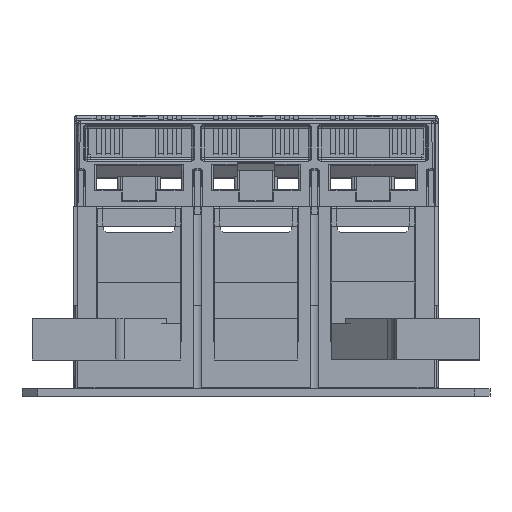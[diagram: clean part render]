
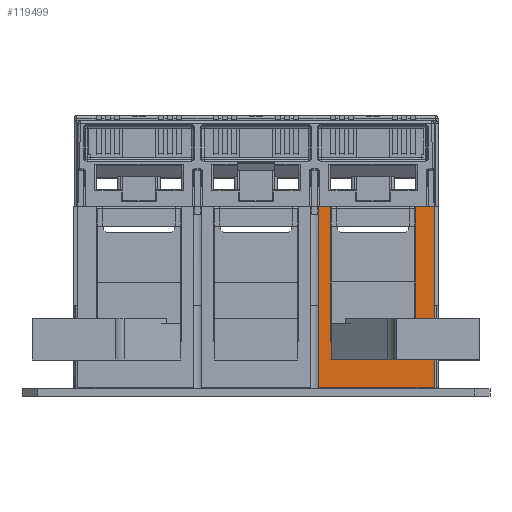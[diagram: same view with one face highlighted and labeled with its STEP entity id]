
A CAD part, front view. The second image highlights one B-rep face of the part: STEP entity #119499.
In plain terms, the highlighted planar face has unit normal (0, -1, 0).
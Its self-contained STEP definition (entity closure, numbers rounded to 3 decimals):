
#36808 = VERTEX_POINT ( 'NONE', #171377 ) ;
#37191 = VERTEX_POINT ( 'NONE', #173089 ) ;
#37200 = EDGE_CURVE ( 'NONE', #37191, #36808, #173085, .T. ) ;
#37238 = VERTEX_POINT ( 'NONE', #173246 ) ;
#37255 = EDGE_CURVE ( 'NONE', #37191, #37238, #173225, .T. ) ;
#37746 = VERTEX_POINT ( 'NONE', #175250 ) ;
#37756 = EDGE_CURVE ( 'NONE', #37759, #37746, #175229, .T. ) ;
#37759 = VERTEX_POINT ( 'NONE', #175392 ) ;
#37913 = VERTEX_POINT ( 'NONE', #175997 ) ;
#37921 = EDGE_CURVE ( 'NONE', #37746, #37913, #175990, .T. ) ;
#119472 = VERTEX_POINT ( 'NONE', #137074 ) ;
#119485 = EDGE_CURVE ( 'NONE', #37238, #119472, #137047, .T. ) ;
#119499 = ADVANCED_FACE ( 'NONE', ( #137236 ), #137171, .T. ) ;
#119504 = EDGE_LOOP ( 'NONE', ( #119586, #119598, #119613, #119622, #119629, #119634, #119647, #119755, #119762, #119766 ) ) ;
#119586 = ORIENTED_EDGE ( 'NONE', *, *, #119485, .T. ) ;
#119598 = ORIENTED_EDGE ( 'NONE', *, *, #119602, .T. ) ;
#119602 = EDGE_CURVE ( 'NONE', #119472, #119606, #137852, .T. ) ;
#119606 = VERTEX_POINT ( 'NONE', #137842 ) ;
#119613 = ORIENTED_EDGE ( 'NONE', *, *, #119618, .F. ) ;
#119618 = EDGE_CURVE ( 'NONE', #37759, #119606, #137817, .T. ) ;
#119622 = ORIENTED_EDGE ( 'NONE', *, *, #37756, .T. ) ;
#119629 = ORIENTED_EDGE ( 'NONE', *, *, #37921, .T. ) ;
#119634 = ORIENTED_EDGE ( 'NONE', *, *, #119640, .T. ) ;
#119640 = EDGE_CURVE ( 'NONE', #37913, #119643, #138026, .T. ) ;
#119643 = VERTEX_POINT ( 'NONE', #137992 ) ;
#119647 = ORIENTED_EDGE ( 'NONE', *, *, #119654, .T. ) ;
#119654 = EDGE_CURVE ( 'NONE', #119643, #119657, #137974, .T. ) ;
#119657 = VERTEX_POINT ( 'NONE', #137963 ) ;
#119755 = ORIENTED_EDGE ( 'NONE', *, *, #119759, .T. ) ;
#119759 = EDGE_CURVE ( 'NONE', #119657, #36808, #138356, .T. ) ;
#119762 = ORIENTED_EDGE ( 'NONE', *, *, #37200, .F. ) ;
#119766 = ORIENTED_EDGE ( 'NONE', *, *, #37255, .T. ) ;
#137042 = DIRECTION ( 'NONE',  ( 0., 0., -1. ) ) ;
#137043 = VECTOR ( 'NONE', #137042, 1000. ) ;
#137046 = CARTESIAN_POINT ( 'NONE',  ( 28.274, -161.669, 23.91 ) ) ;
#137047 = LINE ( 'NONE', #137046, #137043 ) ;
#137074 = CARTESIAN_POINT ( 'NONE',  ( 28.274, -161.669, -45.59 ) ) ;
#137156 = CARTESIAN_POINT ( 'NONE',  ( 72.774, -161.669, 23.91 ) ) ;
#137158 = AXIS2_PLACEMENT_3D ( 'NONE', #137156, #137398, #137395 ) ;
#137171 = PLANE ( 'NONE',  #137158 ) ;
#137236 = FACE_OUTER_BOUND ( 'NONE', #119504, .T. ) ;
#137395 = DIRECTION ( 'NONE',  ( 1., 0., 0. ) ) ;
#137398 = DIRECTION ( 'NONE',  ( 0., -1., 0. ) ) ;
#137811 = DIRECTION ( 'NONE',  ( 0., 0., -1. ) ) ;
#137812 = VECTOR ( 'NONE', #137811, 1000. ) ;
#137814 = CARTESIAN_POINT ( 'NONE',  ( 72.774, -161.669, 23.91 ) ) ;
#137817 = LINE ( 'NONE', #137814, #137812 ) ;
#137842 = CARTESIAN_POINT ( 'NONE',  ( 72.774, -161.669, -45.59 ) ) ;
#137846 = DIRECTION ( 'NONE',  ( 1., 0., 0. ) ) ;
#137847 = VECTOR ( 'NONE', #137846, 1000. ) ;
#137850 = CARTESIAN_POINT ( 'NONE',  ( 72.774, -161.669, -45.59 ) ) ;
#137852 = LINE ( 'NONE', #137850, #137847 ) ;
#137963 = CARTESIAN_POINT ( 'NONE',  ( 33.774, -161.669, -28.09 ) ) ;
#137967 = DIRECTION ( 'NONE',  ( -1., 0., 0. ) ) ;
#137969 = VECTOR ( 'NONE', #137967, 1000. ) ;
#137971 = CARTESIAN_POINT ( 'NONE',  ( 65.774, -161.669, -28.09 ) ) ;
#137974 = LINE ( 'NONE', #137971, #137969 ) ;
#137992 = CARTESIAN_POINT ( 'NONE',  ( 64.774, -161.669, -28.09 ) ) ;
#138012 = DIRECTION ( 'NONE',  ( 1., 0., 0. ) ) ;
#138017 = DIRECTION ( 'NONE',  ( 0., 1., 0. ) ) ;
#138018 = CARTESIAN_POINT ( 'NONE',  ( 64.774, -161.669, -27.09 ) ) ;
#138021 = AXIS2_PLACEMENT_3D ( 'NONE', #138018, #138017, #138012 ) ;
#138026 = CIRCLE ( 'NONE', #138021, 1. ) ;
#138348 = DIRECTION ( 'NONE',  ( 1., 0., 0. ) ) ;
#138350 = DIRECTION ( 'NONE',  ( 0., 1., 0. ) ) ;
#138353 = CARTESIAN_POINT ( 'NONE',  ( 33.774, -161.669, -27.09 ) ) ;
#138355 = AXIS2_PLACEMENT_3D ( 'NONE', #138353, #138350, #138348 ) ;
#138356 = CIRCLE ( 'NONE', #138355, 1. ) ;
#171377 = CARTESIAN_POINT ( 'NONE',  ( 32.774, -161.669, -27.09 ) ) ;
#173080 = DIRECTION ( 'NONE',  ( 0., 0., -1. ) ) ;
#173082 = VECTOR ( 'NONE', #173080, 1000. ) ;
#173084 = CARTESIAN_POINT ( 'NONE',  ( 32.774, -161.669, 23.91 ) ) ;
#173085 = LINE ( 'NONE', #173084, #173082 ) ;
#173089 = CARTESIAN_POINT ( 'NONE',  ( 32.774, -161.669, 23.91 ) ) ;
#173217 = DIRECTION ( 'NONE',  ( -1., 0., 0. ) ) ;
#173220 = VECTOR ( 'NONE', #173217, 1000. ) ;
#173223 = CARTESIAN_POINT ( 'NONE',  ( 32.774, -161.669, 23.91 ) ) ;
#173225 = LINE ( 'NONE', #173223, #173220 ) ;
#173246 = CARTESIAN_POINT ( 'NONE',  ( 28.274, -161.669, 23.91 ) ) ;
#175222 = DIRECTION ( 'NONE',  ( -1., 0., 0. ) ) ;
#175224 = VECTOR ( 'NONE', #175222, 1000. ) ;
#175227 = CARTESIAN_POINT ( 'NONE',  ( 72.774, -161.669, 23.91 ) ) ;
#175229 = LINE ( 'NONE', #175227, #175224 ) ;
#175250 = CARTESIAN_POINT ( 'NONE',  ( 65.774, -161.669, 23.91 ) ) ;
#175392 = CARTESIAN_POINT ( 'NONE',  ( 72.774, -161.669, 23.91 ) ) ;
#175985 = DIRECTION ( 'NONE',  ( 0., 0., -1. ) ) ;
#175987 = VECTOR ( 'NONE', #175985, 1000. ) ;
#175989 = CARTESIAN_POINT ( 'NONE',  ( 65.774, -161.669, 23.91 ) ) ;
#175990 = LINE ( 'NONE', #175989, #175987 ) ;
#175997 = CARTESIAN_POINT ( 'NONE',  ( 65.774, -161.669, -27.09 ) ) ;
